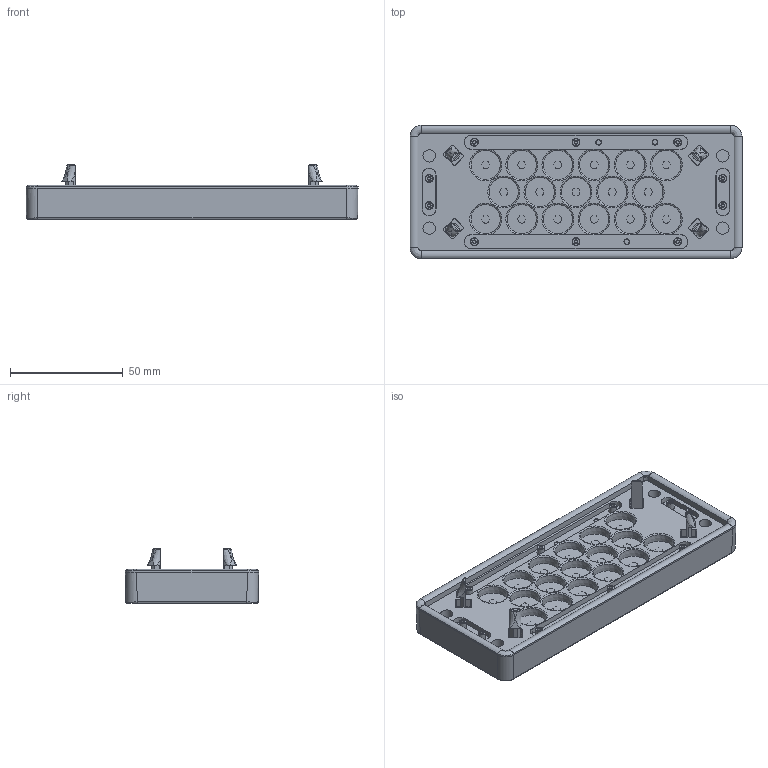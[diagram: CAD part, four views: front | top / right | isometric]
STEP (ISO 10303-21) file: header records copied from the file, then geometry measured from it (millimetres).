
FILE_DESCRIPTION(/* description */ (''),/* implementation_level */ '2;1');
FILE_NAME(/* name */ 'KDP-N_24-17.stp',/* time_stamp */ '2020-09-21T15:18:46+08:00',/* author */ (''),/* organization */ (''),/* preprocessor_version */ 'ST-DEVELOPER v16.7',/* originating_system */ 'SIEMENS PLM Software NX 12.0',/* authorisation */ '');
FILE_SCHEMA (('AP203_CONFIGURATION_CONTROLLED_3D_DESIGN_OF_MECHANICAL_PARTS_AND_ASSEMBLIES_MIM_LF { 1 0 10303 403 2 1 2}'));
Products named in the file (1): 914738881387zle3
Bounding box: 147 x 59 x 24 mm (x, y, z)
Volume: 70386.7 mm3; surface area: 59555.9 mm2
Topology: 2 solids, 16 shells, 1495 faces, 3956 edges, 2580 vertices
Faces by surface type: plane 634, cylinder 227, bspline 216, extrusion 209, cone 120, torus 89
Full cylindrical faces by diameter (mm): 2.5 x6, 3.5 x20, 5.5 x8, 9 x4, 10 x17
Entity records: 60654 total; most frequent: CARTESIAN_POINT 18475, ORIENTED_EDGE 7324, DIRECTION 5801, EDGE_CURVE 3662, VERTEX_POINT 2470, AXIS2_PLACEMENT_3D 1963, EDGE_LOOP 1904, VECTOR 1875
